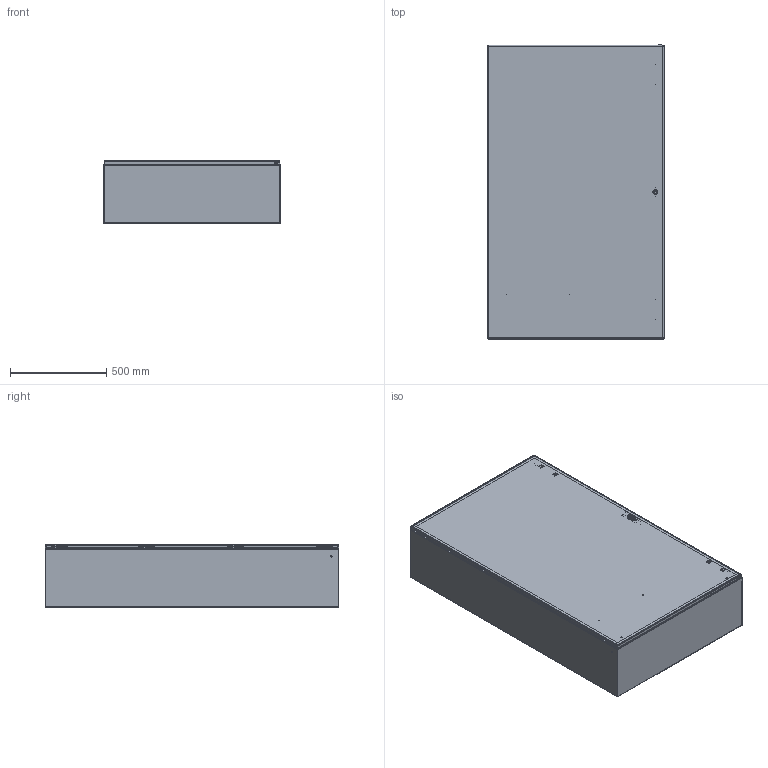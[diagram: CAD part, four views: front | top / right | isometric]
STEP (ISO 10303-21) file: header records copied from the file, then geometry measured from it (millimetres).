
FILE_DESCRIPTION (( 'STEP AP203' ), '1' );
FILE_NAME ('csd603612lg.STEP', '2012-06-12T13:42:27', ( 'User' ), ( 'Pentair Inc' ), 'SwSTEP 2.0', 'SolidWorks 2010', '' );
FILE_SCHEMA (( 'CONFIG_CONTROL_DESIGN' ));
Length unit declared in the file: inch
Products named in the file (37): 64103001; 99411834; 87932903; 64138001; 87555298; 87562939_87562939; 87938015; 87543027; 89076399; 89076193; 89056623; 87929507; 87929767; 87929769_Installed on Pin; 87937995_weldment; 87936154; 99401225; 51123001_Post weld; 87931362_87931362; 87408409_Unlocked; 64102001_Latch Open; 87540678; 64210001; 64202001; 64208001; 64205001; 87541995; 87541994_Installed Height; 87927840_87927840; 64206006; 64207001; csd603612lg; 89046231; 87755974_default; 64406008_default; 23271001_After Weld; 87937955_assy
Assembly tree (74 placements, depth 5):
  csd603612lg
    87929507  x4
      87929769_Installed on Pin
      87929767
    87543027  x4
    89046231
      99401225
      23271001_After Weld  x8
      64406008_default  x2
      87755974_default
    89076399  x4
      89056623
      89076193
    87937955_assy
      87408409_Unlocked
        64206006  x2
        64102001_Latch Open
          87927840_87927840
          64210001
          87540678
          64208001
          64205001  x2
          64202001
          87541995
          87541994_Installed Height
        64103001  x4
        99411834  x2
        64207001  x2
      64138001  x2
      87555298
      87938015
      87932903  x6
      87562939_87562939
      87937995_weldment
        87931362_87931362  x8
        87936154
        99401225
        51123001_Post weld
Bounding box: 914.4 x 1524.3 x 325.5 mm (x, y, z)
Volume: 8629714.8 mm3; surface area: 9273620.8 mm2
Topology: 74 solids, 74 shells, 4576 faces, 11688 edges, 7210 vertices
Faces by surface type: plane 1841, cylinder 1322, bspline 952, torus 219, cone 201, sphere 41
Entity records: 88800 total; most frequent: CARTESIAN_POINT 33305, ORIENTED_EDGE 11204, DIRECTION 9512, EDGE_CURVE 5602, VERTEX_POINT 3529, AXIS2_PLACEMENT_3D 3266, VECTOR 2980, LINE 2980
